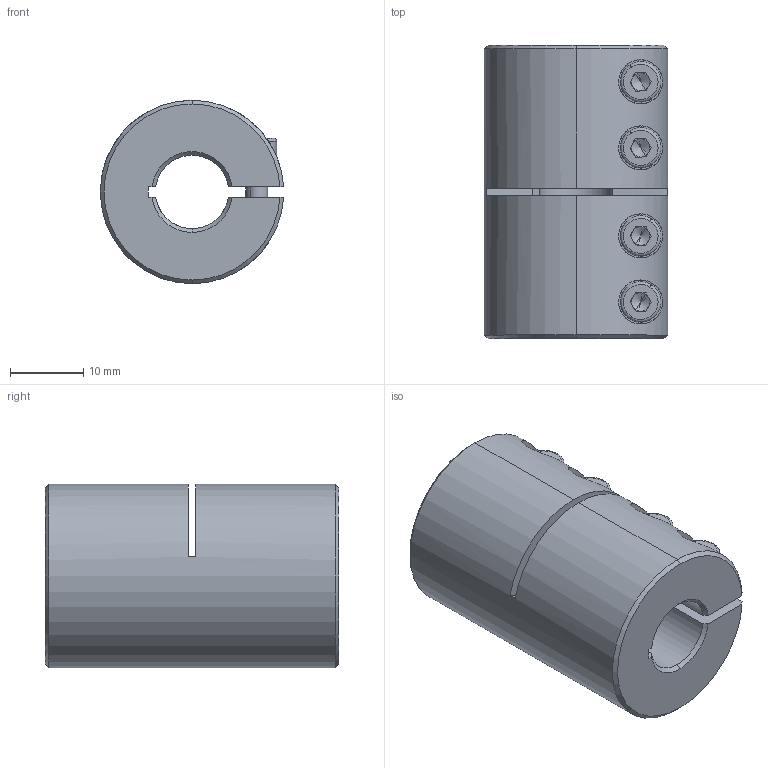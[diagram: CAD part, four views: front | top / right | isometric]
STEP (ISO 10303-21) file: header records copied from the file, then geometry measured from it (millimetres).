
FILE_DESCRIPTION (( 'STEP AP214' ), '1' );
FILE_NAME ('LL-B-D25L40-10-10½¨Ä£.STEP', '2022-07-21T05:19:46', ( '' ), ( '' ), 'SwSTEP 2.0', 'SolidWorks 2022', '' );
FILE_SCHEMA (( 'AUTOMOTIVE_DESIGN' ));
Length unit declared in the file: millimetre
Products named in the file (1): LL-B-D25L40-10-10膘耀
Bounding box: 24.98 x 40 x 25 mm (x, y, z)
Volume: 15444 mm3; surface area: 7110.7 mm2
Topology: 1 solids, 1 shells, 173 faces, 440 edges, 277 vertices
Faces by surface type: plane 83, cylinder 62, cone 20, torus 8
Entity records: 5667 total; most frequent: CARTESIAN_POINT 1407, DIRECTION 915, ORIENTED_EDGE 864, EDGE_CURVE 432, AXIS2_PLACEMENT_3D 353, VERTEX_POINT 277, VECTOR 209, LINE 209
